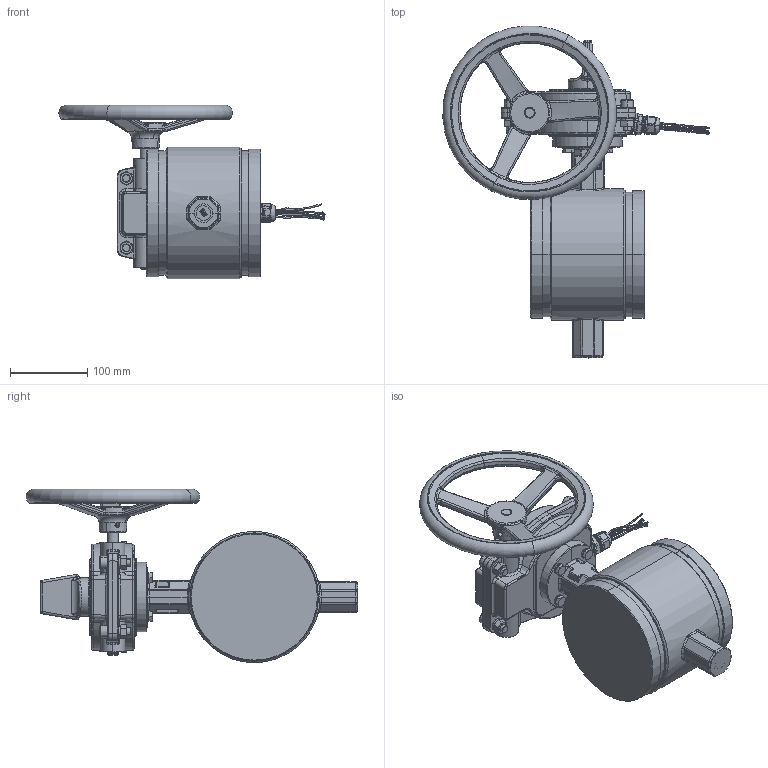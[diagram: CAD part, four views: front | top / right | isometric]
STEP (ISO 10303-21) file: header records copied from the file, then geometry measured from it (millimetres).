
FILE_DESCRIPTION (( 'STEP AP214' ), '1' );
FILE_NAME ('933XD381XD165.STEP', '2024-04-16T03:28:00', ( '' ), ( '' ), 'SwSTEP 2.0', 'SolidWorks 2018', '' );
FILE_SCHEMA (( 'AUTOMOTIVE_DESIGN' ));
Length unit declared in the file: millimetre
Products named in the file (19): 901WXTD100-01-1-T.STEP; 922WGZ14X190X6-01-0-T.STEP; 933XD381XD165; 91WXD381XD165.STEP; dt-38x1d5_a_d.STEP; 922D14-6B165.STEP; hex head bolts-full thread grade c gb_GB_FASTENER_BOLT_HHBFTC M8X25-N.STEP; single coil lock washers light type gb_GB_FASTENER_WASHER_SSWL 8.STEP; 901XWL-RDD150.STEP; 901WGD100-01-1-T.STEP; 280S15.STEP; 922SL225X14X6-01-0-T.STEP; hex nuts, style 1-grades ab gb_GB_FASTENER_NUT_SNAB1 M10-N.STEP; 901wzspd100-01-2-t.STEP; MFD21D8X2.STEP; spring lock washers--normal type gb_GB_FASTENER_WASHER_SW 10.STEP; 922WWG40X14.STEP; 陓瘍盄123; hexagon socket head cap screws gb_GB_FASTENER_SCREWS_HSHCS M10X30-N.STEP
Assembly tree (33 placements, depth 4):
  933XD381XD165
    91WXD381XD165.STEP
      901XWL-RDD150.STEP
        901WXTD100-01-1-T.STEP
        901WGD100-01-1-T.STEP
        922WWG40X14.STEP
        922WGZ14X190X6-01-0-T.STEP
        922SL225X14X6-01-0-T.STEP
        901wzspd100-01-2-t.STEP
        hexagon socket head cap screws gb_GB_FASTENER_SCREWS_HSHCS M10X30-N.STEP  x4
        spring lock washers--normal type gb_GB_FASTENER_WASHER_SW 10.STEP  x4
        hex nuts, style 1-grades ab gb_GB_FASTENER_NUT_SNAB1 M10-N.STEP  x4
        MFD21D8X2.STEP
        280S15.STEP
      922D14-6B165.STEP
      dt-38x1d5_a_d.STEP
      single coil lock washers light type gb_GB_FASTENER_WASHER_SSWL 8.STEP  x4
      hex head bolts-full thread grade c gb_GB_FASTENER_BOLT_HHBFTC M8X25-N.STEP  x4
    陓瘍盄123
Bounding box: 344.43 x 429.25 x 224.5 mm (x, y, z)
Volume: 4401145.1 mm3; surface area: 441903.8 mm2
Topology: 37 solids, 49 shells, 2502 faces, 5976 edges, 3579 vertices
Faces by surface type: bspline 782, plane 587, cylinder 545, cone 257, torus 201, sphere 130
Entity records: 124229 total; most frequent: CARTESIAN_POINT 78980, ORIENTED_EDGE 10692, DIRECTION 6762, EDGE_CURVE 5360, VERTEX_POINT 3222, AXIS2_PLACEMENT_3D 2754, B_SPLINE_CURVE_WITH_KNOTS 2692, EDGE_LOOP 2352
